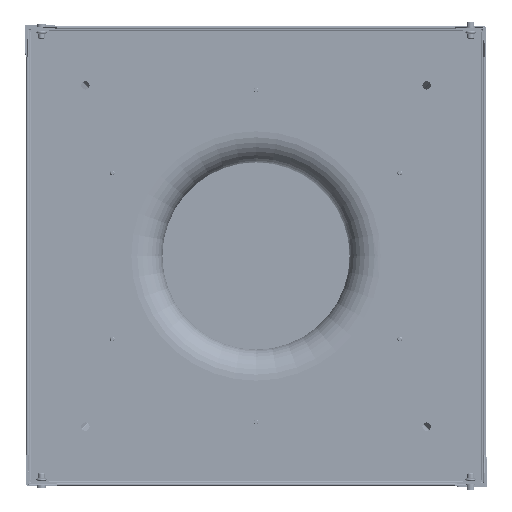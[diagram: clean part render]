
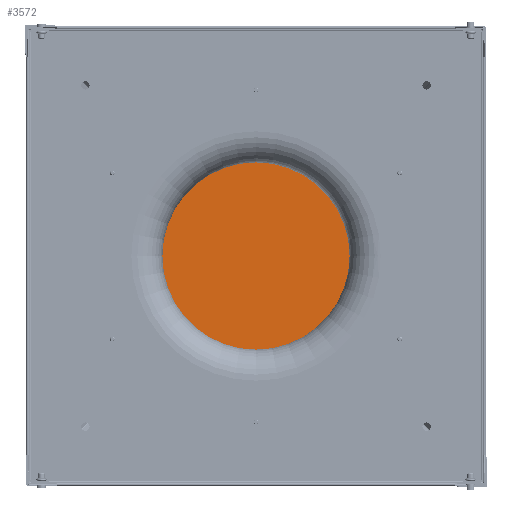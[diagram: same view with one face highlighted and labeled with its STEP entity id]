
A CAD part, front view. The second image highlights one B-rep face of the part: STEP entity #3572.
In plain terms, the highlighted planar face has unit normal (0, -1, 0).
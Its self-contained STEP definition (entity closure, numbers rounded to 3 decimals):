
#3572 = ADVANCED_FACE ( 'NONE', ( #66060 ), #145132, .F. ) ;
#5673 = CARTESIAN_POINT ( 'NONE',  ( 132.776, 557.292, 132.776 ) ) ;
#10268 = DIRECTION ( 'NONE',  ( 0., 0., 1. ) ) ;
#10335 = VERTEX_POINT ( 'NONE', #265759 ) ;
#26744 = EDGE_CURVE ( 'NONE', #10335, #331072, #227838, .T. ) ;
#38391 = ORIENTED_EDGE ( 'NONE', *, *, #270640, .F. ) ;
#44463 = EDGE_CURVE ( 'NONE', #47627, #10335, #44612, .T. ) ;
#44612 = LINE ( 'NONE', #349133, #179998 ) ;
#45698 = ORIENTED_EDGE ( 'NONE', *, *, #44463, .F. ) ;
#47627 = VERTEX_POINT ( 'NONE', #178752 ) ;
#53611 = EDGE_CURVE ( 'NONE', #331072, #185601, #118033, .T. ) ;
#54442 = AXIS2_PLACEMENT_3D ( 'NONE', #171204, #172347, #10268 ) ;
#55901 = CARTESIAN_POINT ( 'NONE',  ( -132.776, 557.292, -132.776 ) ) ;
#57947 = CARTESIAN_POINT ( 'NONE',  ( 132.776, 557.292, -132.776 ) ) ;
#64242 = ORIENTED_EDGE ( 'NONE', *, *, #26744, .F. ) ;
#66060 = FACE_OUTER_BOUND ( 'NONE', #300344, .T. ) ;
#81871 = CARTESIAN_POINT ( 'NONE',  ( -132.776, 557.292, -132.776 ) ) ;
#85105 = DIRECTION ( 'NONE',  ( -1., 0., 0. ) ) ;
#87019 = VECTOR ( 'NONE', #138570, 1000. ) ;
#118033 = LINE ( 'NONE', #57947, #253460 ) ;
#119769 = CARTESIAN_POINT ( 'NONE',  ( 132.776, 557.292, -132.776 ) ) ;
#138570 = DIRECTION ( 'NONE',  ( 0., 0., 1. ) ) ;
#139512 = ORIENTED_EDGE ( 'NONE', *, *, #53611, .F. ) ;
#145132 = PLANE ( 'NONE',  #54442 ) ;
#158939 = LINE ( 'NONE', #81871, #87019 ) ;
#167750 = DIRECTION ( 'NONE',  ( 0., 0., -1. ) ) ;
#171204 = CARTESIAN_POINT ( 'NONE',  ( 0., 557.292, 0. ) ) ;
#172347 = DIRECTION ( 'NONE',  ( 0., 1., 0. ) ) ;
#172912 = VECTOR ( 'NONE', #167750, 1000. ) ;
#178752 = CARTESIAN_POINT ( 'NONE',  ( -132.776, 557.292, 132.776 ) ) ;
#179998 = VECTOR ( 'NONE', #214234, 1000. ) ;
#185601 = VERTEX_POINT ( 'NONE', #55901 ) ;
#214234 = DIRECTION ( 'NONE',  ( 1., 0., 0. ) ) ;
#227838 = LINE ( 'NONE', #5673, #172912 ) ;
#253460 = VECTOR ( 'NONE', #85105, 1000. ) ;
#265759 = CARTESIAN_POINT ( 'NONE',  ( 132.776, 557.292, 132.776 ) ) ;
#270640 = EDGE_CURVE ( 'NONE', #185601, #47627, #158939, .T. ) ;
#300344 = EDGE_LOOP ( 'NONE', ( #45698, #38391, #139512, #64242 ) ) ;
#331072 = VERTEX_POINT ( 'NONE', #119769 ) ;
#349133 = CARTESIAN_POINT ( 'NONE',  ( -132.776, 557.292, 132.776 ) ) ;
